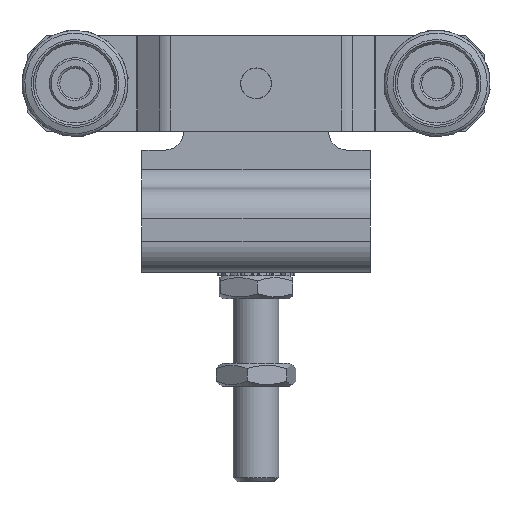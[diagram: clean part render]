
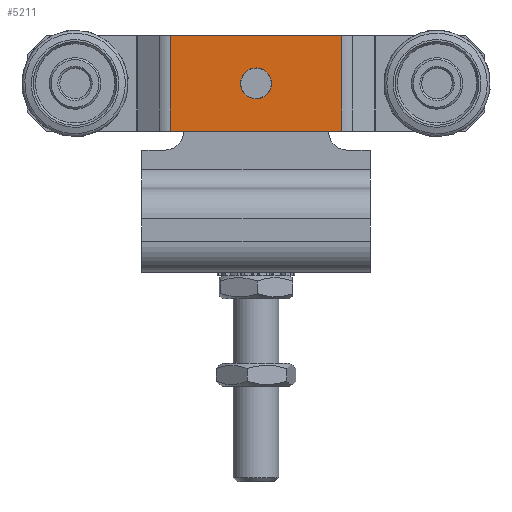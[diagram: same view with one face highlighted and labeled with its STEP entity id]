
A CAD part, left-side view. The second image highlights one B-rep face of the part: STEP entity #5211.
In plain terms, the highlighted planar face has unit normal (-1, 0, 0) as drawn and (0, 0, 1) by its records, which use the part's own axes.
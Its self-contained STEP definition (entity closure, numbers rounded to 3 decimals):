
#188=FACE_BOUND('',#740,.T.);
#415=FACE_OUTER_BOUND('',#739,.T.);
#739=EDGE_LOOP('',(#3780,#3781,#3782,#3783));
#740=EDGE_LOOP('',(#3784));
#1165=LINE('',#8057,#1621);
#1171=LINE('',#8071,#1627);
#1172=LINE('',#8073,#1628);
#1173=LINE('',#8074,#1629);
#1621=VECTOR('',#6409,25.);
#1627=VECTOR('',#6423,45.);
#1628=VECTOR('',#6424,25.);
#1629=VECTOR('',#6425,45.);
#1983=CIRCLE('',#5578,4.05);
#2299=VERTEX_POINT('',#8039);
#2302=VERTEX_POINT('',#8047);
#2309=VERTEX_POINT('',#8070);
#2310=VERTEX_POINT('',#8072);
#2311=VERTEX_POINT('',#8075);
#2861=EDGE_CURVE('',#2302,#2299,#1165,.T.);
#2868=EDGE_CURVE('',#2309,#2299,#1171,.T.);
#2869=EDGE_CURVE('',#2309,#2310,#1172,.T.);
#2870=EDGE_CURVE('',#2302,#2310,#1173,.T.);
#2871=EDGE_CURVE('',#2311,#2311,#1983,.T.);
#3780=ORIENTED_EDGE('',*,*,#2861,.T.);
#3781=ORIENTED_EDGE('',*,*,#2868,.F.);
#3782=ORIENTED_EDGE('',*,*,#2869,.T.);
#3783=ORIENTED_EDGE('',*,*,#2870,.F.);
#3784=ORIENTED_EDGE('',*,*,#2871,.T.);
#5012=PLANE('',#5577);
#5211=ADVANCED_FACE('',(#415,#188),#5012,.T.);
#5577=AXIS2_PLACEMENT_3D('',#8069,#6421,#6422);
#5578=AXIS2_PLACEMENT_3D('',#8076,#6426,#6427);
#6409=DIRECTION('',(0.,1.,0.));
#6421=DIRECTION('center_axis',(0.,0.,1.));
#6422=DIRECTION('ref_axis',(1.,0.,0.));
#6423=DIRECTION('',(1.,0.,0.));
#6424=DIRECTION('',(0.,-1.,0.));
#6425=DIRECTION('',(-1.,0.,0.));
#6426=DIRECTION('center_axis',(0.,0.,-1.));
#6427=DIRECTION('ref_axis',(-1.,0.,0.));
#8039=CARTESIAN_POINT('',(22.5,12.5,5.));
#8047=CARTESIAN_POINT('',(22.5,-12.5,5.));
#8057=CARTESIAN_POINT('',(22.5,-6.25,5.));
#8069=CARTESIAN_POINT('Origin',(27.25,0.,5.));
#8070=CARTESIAN_POINT('',(-22.5,12.5,5.));
#8071=CARTESIAN_POINT('',(55.75,12.5,5.));
#8072=CARTESIAN_POINT('',(-22.5,-12.5,5.));
#8073=CARTESIAN_POINT('',(-22.5,6.25,5.));
#8074=CARTESIAN_POINT('',(-55.75,-12.5,5.));
#8075=CARTESIAN_POINT('',(4.05,0.,5.));
#8076=CARTESIAN_POINT('Origin',(0.,0.,5.));
